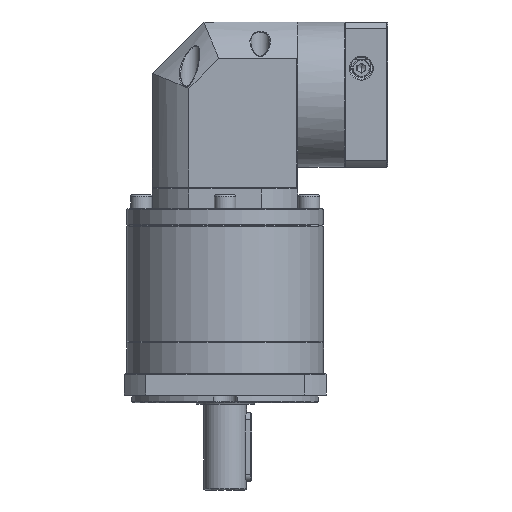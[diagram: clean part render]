
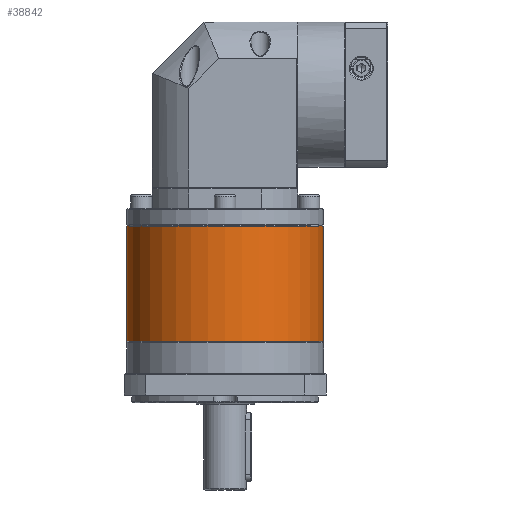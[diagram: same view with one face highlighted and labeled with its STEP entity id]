
A CAD part, front view. The second image highlights one B-rep face of the part: STEP entity #38842.
In plain terms, the highlighted cylindrical face has radius 57.5 mm (diameter 115 mm), a partial arc.
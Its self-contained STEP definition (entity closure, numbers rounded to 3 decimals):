
#3665 = LINE ( 'NONE', #108595, #30699 ) ;
#14039 = DIRECTION ( 'NONE',  ( 0., 0., 1. ) ) ;
#15740 = ORIENTED_EDGE ( 'NONE', *, *, #67928, .T. ) ;
#18337 = CYLINDRICAL_SURFACE ( 'NONE', #40075, 57.5 ) ;
#30699 = VECTOR ( 'NONE', #98136, 1000. ) ;
#31763 = VERTEX_POINT ( 'NONE', #56901 ) ;
#33051 = EDGE_CURVE ( 'NONE', #109351, #66230, #3665, .T. ) ;
#36733 = AXIS2_PLACEMENT_3D ( 'NONE', #47155, #14039, #112113 ) ;
#38129 = EDGE_LOOP ( 'NONE', ( #130532, #86004, #15740, #58516, #42959 ) ) ;
#38842 = ADVANCED_FACE ( 'NONE', ( #86051 ), #18337, .T. ) ;
#40075 = AXIS2_PLACEMENT_3D ( 'NONE', #64392, #66265, #119367 ) ;
#42959 = ORIENTED_EDGE ( 'NONE', *, *, #122791, .T. ) ;
#44521 = CARTESIAN_POINT ( 'NONE',  ( 128.796, 63.298, -140.03 ) ) ;
#47090 = CARTESIAN_POINT ( 'NONE',  ( 71.296, 63.298, -72.818 ) ) ;
#47155 = CARTESIAN_POINT ( 'NONE',  ( 71.296, 63.298, -140.03 ) ) ;
#48145 = CIRCLE ( 'NONE', #70672, 57.5 ) ;
#48438 = CIRCLE ( 'NONE', #109206, 57.5 ) ;
#56616 = DIRECTION ( 'NONE',  ( 0., 0., -1. ) ) ;
#56901 = CARTESIAN_POINT ( 'NONE',  ( 128.796, 63.298, -72.818 ) ) ;
#57604 = DIRECTION ( 'NONE',  ( 0., 0., -1. ) ) ;
#57988 = DIRECTION ( 'NONE',  ( -1., 0., 0. ) ) ;
#58516 = ORIENTED_EDGE ( 'NONE', *, *, #33051, .T. ) ;
#60119 = VERTEX_POINT ( 'NONE', #105122 ) ;
#64392 = CARTESIAN_POINT ( 'NONE',  ( 71.296, 63.298, -72.318 ) ) ;
#66230 = VERTEX_POINT ( 'NONE', #121956 ) ;
#66265 = DIRECTION ( 'NONE',  ( 0., 0., -1. ) ) ;
#66982 = CARTESIAN_POINT ( 'NONE',  ( 71.296, 63.298, -72.818 ) ) ;
#67928 = EDGE_CURVE ( 'NONE', #60119, #109351, #48145, .T. ) ;
#70059 = CARTESIAN_POINT ( 'NONE',  ( 13.796, 63.298, -72.818 ) ) ;
#70672 = AXIS2_PLACEMENT_3D ( 'NONE', #47090, #122920, #57988 ) ;
#81659 = CIRCLE ( 'NONE', #36733, 57.5 ) ;
#86004 = ORIENTED_EDGE ( 'NONE', *, *, #121747, .T. ) ;
#86051 = FACE_OUTER_BOUND ( 'NONE', #38129, .T. ) ;
#98136 = DIRECTION ( 'NONE',  ( 0., 0., -1. ) ) ;
#105122 = CARTESIAN_POINT ( 'NONE',  ( 71.296, 5.798, -72.818 ) ) ;
#108595 = CARTESIAN_POINT ( 'NONE',  ( 13.796, 63.298, -72.318 ) ) ;
#109206 = AXIS2_PLACEMENT_3D ( 'NONE', #66982, #56616, #120577 ) ;
#109351 = VERTEX_POINT ( 'NONE', #70059 ) ;
#112113 = DIRECTION ( 'NONE',  ( -1., 0., 0. ) ) ;
#113966 = VECTOR ( 'NONE', #57604, 1000. ) ;
#119367 = DIRECTION ( 'NONE',  ( -1., 0., 0. ) ) ;
#120577 = DIRECTION ( 'NONE',  ( -1., 0., 0. ) ) ;
#121747 = EDGE_CURVE ( 'NONE', #31763, #60119, #48438, .T. ) ;
#121956 = CARTESIAN_POINT ( 'NONE',  ( 13.796, 63.298, -140.03 ) ) ;
#122756 = EDGE_CURVE ( 'NONE', #31763, #137612, #139365, .T. ) ;
#122791 = EDGE_CURVE ( 'NONE', #66230, #137612, #81659, .T. ) ;
#122920 = DIRECTION ( 'NONE',  ( 0., 0., -1. ) ) ;
#130532 = ORIENTED_EDGE ( 'NONE', *, *, #122756, .F. ) ;
#134832 = CARTESIAN_POINT ( 'NONE',  ( 128.796, 63.298, -72.318 ) ) ;
#137612 = VERTEX_POINT ( 'NONE', #44521 ) ;
#139365 = LINE ( 'NONE', #134832, #113966 ) ;
